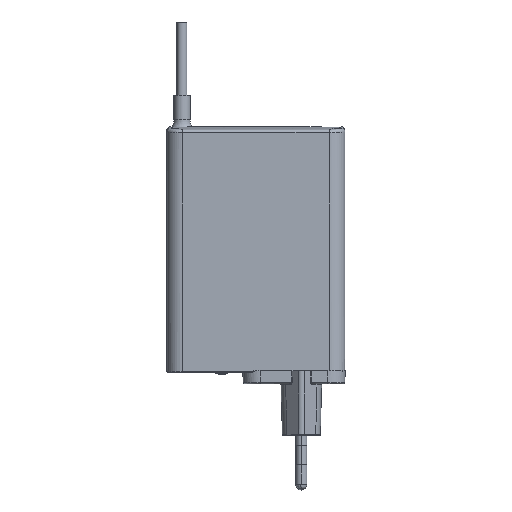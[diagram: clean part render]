
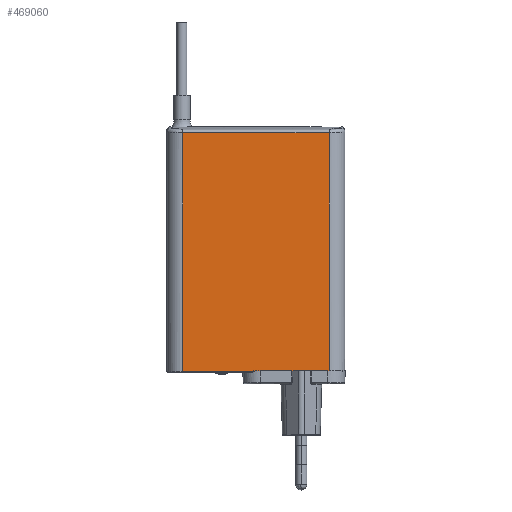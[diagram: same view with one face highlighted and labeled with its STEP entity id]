
A CAD part, top view. The second image highlights one B-rep face of the part: STEP entity #469060.
In plain terms, the highlighted planar face has unit normal (0, 0, 1).
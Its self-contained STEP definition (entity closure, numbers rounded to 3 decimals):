
#462600=CARTESIAN_POINT('',(-24.715,153.683,
21.101));
#462610=VERTEX_POINT('',#462600);
#463070=CARTESIAN_POINT('',(26.285,153.683,
21.101));
#463080=VERTEX_POINT('',#463070);
#463110=CARTESIAN_POINT('',(-24.715,153.683,
21.101));
#463120=DIRECTION('',(1.,0.,0.));
#463130=VECTOR('',#463120,1.);
#463140=LINE('',#463110,#463130);
#463150=EDGE_CURVE('',#462610,#463080,#463140,.T.);
#465630=CARTESIAN_POINT('',(26.285,70.55,21.101));
#465640=VERTEX_POINT('',#465630);
#465670=CARTESIAN_POINT('',(26.285,153.683,
21.101));
#465680=DIRECTION('',(0.,-1.,0.));
#465690=VECTOR('',#465680,1.);
#465700=LINE('',#465670,#465690);
#465710=EDGE_CURVE('',#463080,#465640,#465700,.T.);
#468430=CARTESIAN_POINT('',(-24.715,70.55,21.101));
#468440=VERTEX_POINT('',#468430);
#468730=CARTESIAN_POINT('',(-24.715,70.55,21.101));
#468740=DIRECTION('',(0.,1.,0.));
#468750=VECTOR('',#468740,1.);
#468760=LINE('',#468730,#468750);
#468770=EDGE_CURVE('',#468440,#462610,#468760,.T.);
#468900=CARTESIAN_POINT('',(0.785,114.,21.101));
#468910=DIRECTION('',(0.,0.,-1.));
#468920=DIRECTION('',(0.,1.,0.));
#468930=AXIS2_PLACEMENT_3D('',#468900,#468910,#468920);
#468940=PLANE('',#468930);
#468950=ORIENTED_EDGE('',*,*,#468770,.F.);
#468960=ORIENTED_EDGE('',*,*,#463150,.F.);
#468970=ORIENTED_EDGE('',*,*,#465710,.F.);
#468980=CARTESIAN_POINT('',(26.285,70.55,21.101));
#468990=DIRECTION('',(-1.,0.,0.));
#469000=VECTOR('',#468990,1.);
#469010=LINE('',#468980,#469000);
#469020=EDGE_CURVE('',#465640,#468440,#469010,.T.);
#469030=ORIENTED_EDGE('',*,*,#469020,.F.);
#469040=EDGE_LOOP('',(#469030,#468970,#468960,#468950));
#469050=FACE_OUTER_BOUND('',#469040,.T.);
#469060=ADVANCED_FACE('',(#469050),#468940,.F.);
